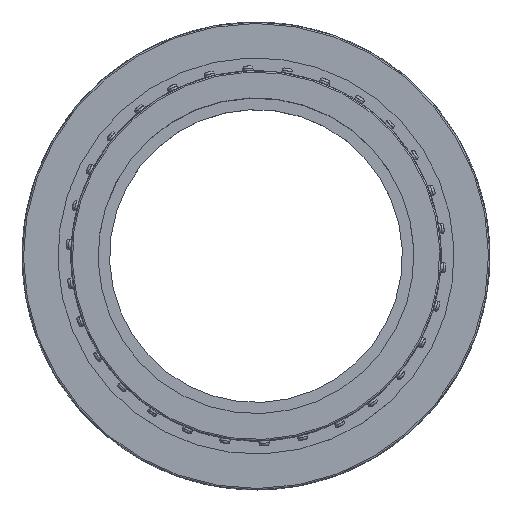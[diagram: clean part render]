
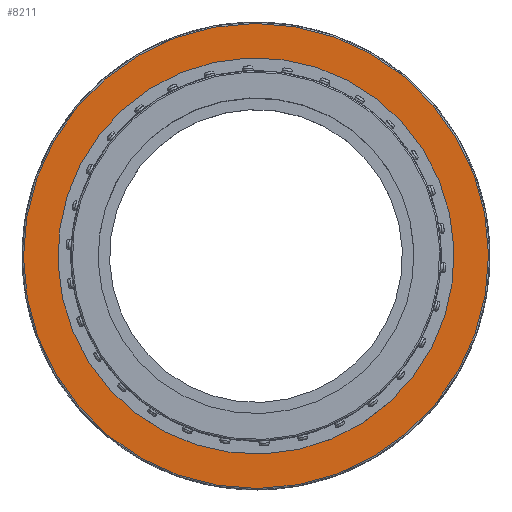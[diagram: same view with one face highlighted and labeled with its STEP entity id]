
A CAD part, top view. The second image highlights one B-rep face of the part: STEP entity #8211.
In plain terms, the highlighted planar face has unit normal (0, 0, 1).
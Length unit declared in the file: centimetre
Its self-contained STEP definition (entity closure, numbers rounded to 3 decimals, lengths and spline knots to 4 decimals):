
#1709=FACE_BOUND('',#2182,.T.);
#1735=FACE_OUTER_BOUND('',#2181,.T.);
#2181=EDGE_LOOP('',(#5125));
#2182=EDGE_LOOP('',(#5126));
#2653=CIRCLE('',#8662,8.1);
#2654=CIRCLE('',#8663,6.9);
#3097=VERTEX_POINT('',#11815);
#3098=VERTEX_POINT('',#11817);
#3901=EDGE_CURVE('',#3097,#3097,#2653,.T.);
#3902=EDGE_CURVE('',#3098,#3098,#2654,.T.);
#5125=ORIENTED_EDGE('',*,*,#3901,.F.);
#5126=ORIENTED_EDGE('',*,*,#3902,.F.);
#7573=PLANE('',#8661);
#8211=ADVANCED_FACE('',(#1735,#1709),#7573,.T.);
#8661=AXIS2_PLACEMENT_3D('',#11814,#9493,#9494);
#8662=AXIS2_PLACEMENT_3D('',#11816,#9495,#9496);
#8663=AXIS2_PLACEMENT_3D('',#11818,#9497,#9498);
#9493=DIRECTION('center_axis',(0.,0.,
1.));
#9494=DIRECTION('ref_axis',(-0.493,-0.87,0.));
#9495=DIRECTION('center_axis',(0.,0.,
-1.));
#9496=DIRECTION('ref_axis',(0.87,-0.493,0.));
#9497=DIRECTION('center_axis',(0.,0.,
1.));
#9498=DIRECTION('ref_axis',(0.537,-0.844,0.));
#11814=CARTESIAN_POINT('Origin',(-7.0885,4.0218,3.56));
#11815=CARTESIAN_POINT('',(-7.045,3.9972,3.56));
#11816=CARTESIAN_POINT('Origin',(0.,0.,
3.56));
#11817=CARTESIAN_POINT('',(-3.7029,5.8222,3.56));
#11818=CARTESIAN_POINT('Origin',(0.,0.,
3.56));
